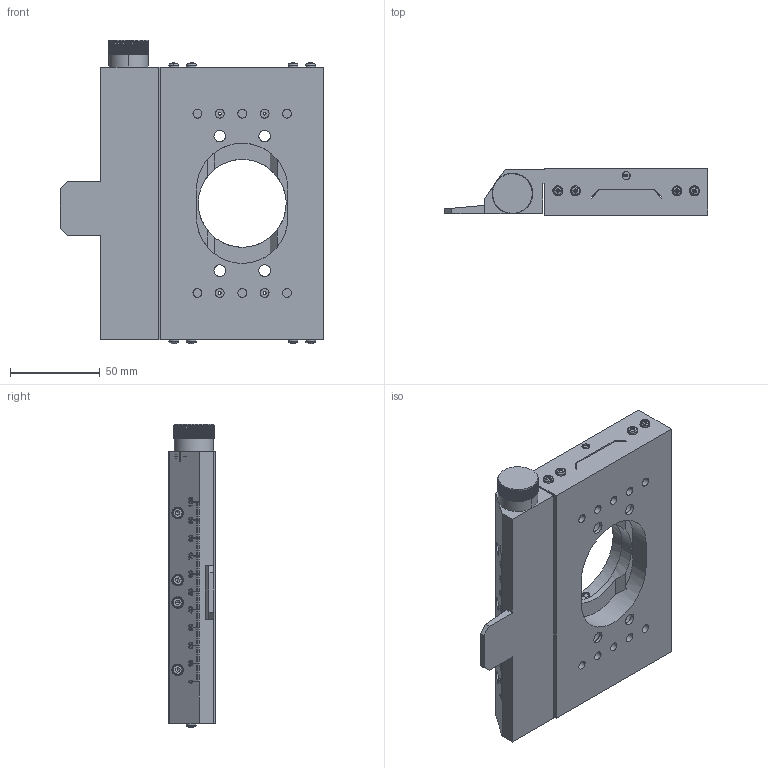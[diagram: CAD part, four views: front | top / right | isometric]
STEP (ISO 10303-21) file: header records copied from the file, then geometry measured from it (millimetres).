
FILE_DESCRIPTION (( 'STEP AP203' ), '1' );
FILE_NAME ('7T167-100Q.STEP', '2010-09-29T13:38:47', ( 'Darius' ), ( '' ), 'SwSTEP 2.0', 'SolidWorks 2003240', '' );
FILE_SCHEMA (( 'CONFIG_CONTROL_DESIGN' ));
Products named in the file (1): 7T167-100Q
Bounding box: 147.01 x 26 x 169.37 mm (x, y, z)
Volume: 390362.5 mm3; surface area: 81910.6 mm2
Topology: 1 solids, 15 shells, 2592 faces, 7038 edges, 4564 vertices
Faces by surface type: plane 1284, cylinder 627, bspline 403, cone 278
Entity records: 99293 total; most frequent: CARTESIAN_POINT 40394, ORIENTED_EDGE 13828, DIRECTION 9363, EDGE_CURVE 6914, VERTEX_POINT 4564, VECTOR 3499, LINE 3499, AXIS2_PLACEMENT_3D 2932
